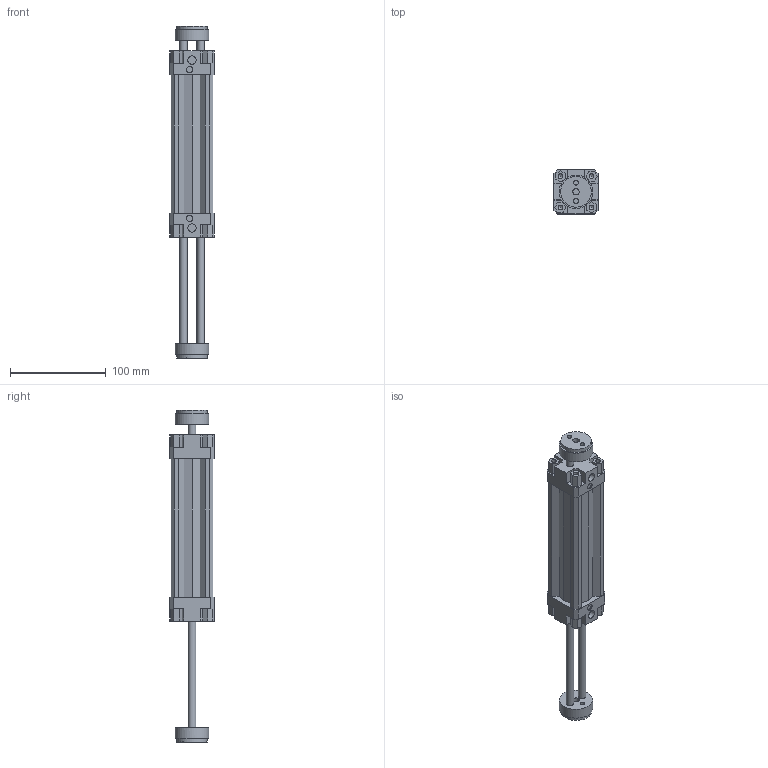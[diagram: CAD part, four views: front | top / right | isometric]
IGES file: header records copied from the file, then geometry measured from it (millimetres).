
Global section: file name: 132#_032_0100_06; native system: Autodesk Inventor 2014; preprocessor: unknown; author: A. Manieri; date: 20161006.154652; units: millimetre
Bounding box: 46 x 46 x 346 mm (x, y, z)
Volume: 266686.9 mm3; surface area: 93389.6 mm2
Topology: 2 solids, 2 shells, 190 faces, 518 edges, 354 vertices
Faces by surface type: bspline 190
